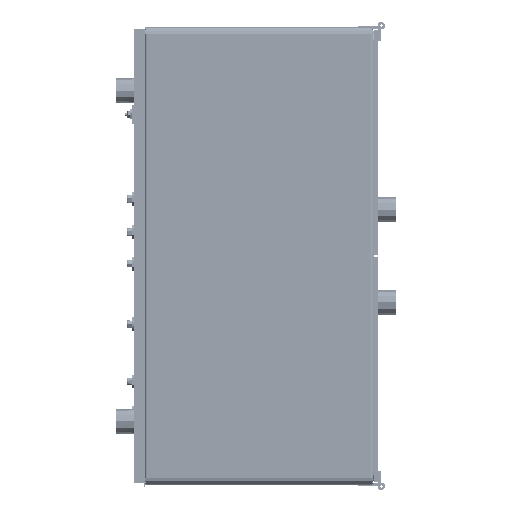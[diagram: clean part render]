
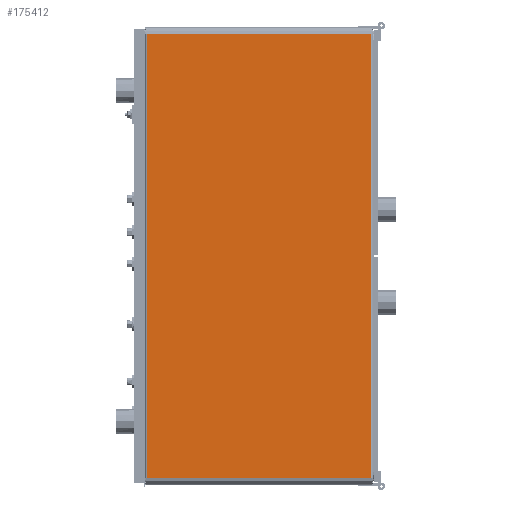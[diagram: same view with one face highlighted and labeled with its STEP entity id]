
A CAD part, left-side view. The second image highlights one B-rep face of the part: STEP entity #175412.
In plain terms, the highlighted planar face has unit normal (-1, 0, 0).
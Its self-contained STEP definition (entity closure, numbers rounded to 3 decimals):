
#30700=FACE_OUTER_BOUND('',#40564,.T.);
#40564=EDGE_LOOP('',(#142089,#142090,#142091,#142092));
#53301=LINE('',#292521,#67129);
#53304=LINE('',#292527,#67132);
#53305=LINE('',#292532,#67133);
#53309=LINE('',#292542,#67137);
#67129=VECTOR('',#224481,10.);
#67132=VECTOR('',#224490,10.);
#67133=VECTOR('',#224497,10.);
#67137=VECTOR('',#224511,10.);
#82064=VERTEX_POINT('',#292189);
#82095=VERTEX_POINT('',#292300);
#82131=VERTEX_POINT('',#292457);
#82143=VERTEX_POINT('',#292530);
#103516=EDGE_CURVE('',#82064,#82095,#53301,.T.);
#103519=EDGE_CURVE('',#82131,#82064,#53304,.T.);
#103522=EDGE_CURVE('',#82095,#82143,#53305,.T.);
#103528=EDGE_CURVE('',#82143,#82131,#53309,.T.);
#142089=ORIENTED_EDGE('',*,*,#103516,.T.);
#142090=ORIENTED_EDGE('',*,*,#103522,.T.);
#142091=ORIENTED_EDGE('',*,*,#103528,.T.);
#142092=ORIENTED_EDGE('',*,*,#103519,.T.);
#168168=PLANE('',#189524);
#175412=ADVANCED_FACE('',(#30700),#168168,.T.);
#189524=AXIS2_PLACEMENT_3D('',#292541,#224509,#224510);
#224481=DIRECTION('',(0.,0.,1.));
#224490=DIRECTION('',(0.,-1.,0.));
#224497=DIRECTION('',(0.,1.,0.));
#224509=DIRECTION('center_axis',(-1.,0.,0.));
#224510=DIRECTION('ref_axis',(0.,0.,
-1.));
#224511=DIRECTION('',(0.,0.,-1.));
#292189=CARTESIAN_POINT('',(-550.5,-388.,7.5));
#292300=CARTESIAN_POINT('',(-550.5,-388.,734.5));
#292457=CARTESIAN_POINT('',(-550.5,-20.,7.5));
#292521=CARTESIAN_POINT('',(-550.5,-388.,552.75));
#292527=CARTESIAN_POINT('',(-550.5,-110.5,7.5));
#292530=CARTESIAN_POINT('',(-550.5,-20.,734.5));
#292532=CARTESIAN_POINT('',(-550.5,-297.5,734.5));
#292541=CARTESIAN_POINT('Origin',(-550.5,-204.,371.));
#292542=CARTESIAN_POINT('',(-550.5,-20.,203.5));
